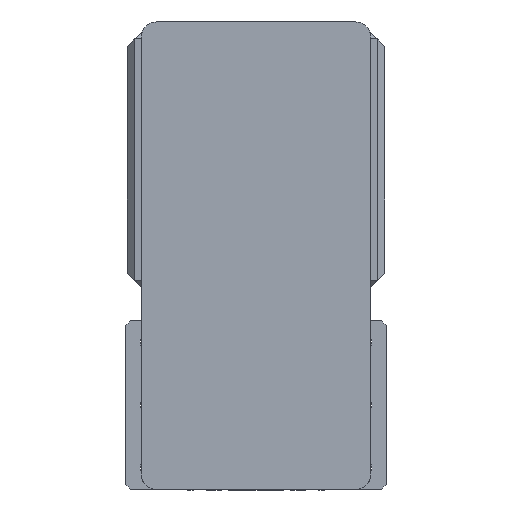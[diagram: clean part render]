
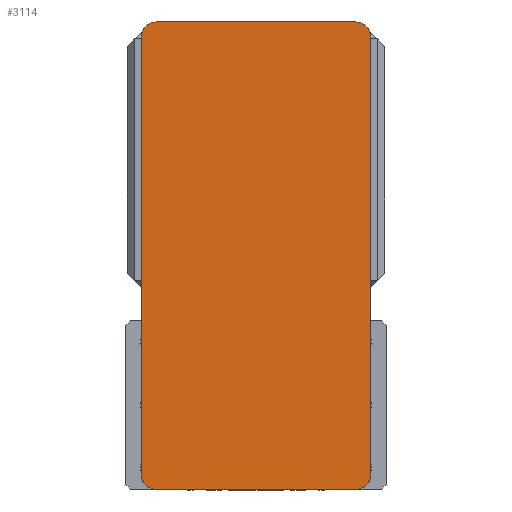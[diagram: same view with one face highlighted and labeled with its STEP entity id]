
A CAD part, left-side view. The second image highlights one B-rep face of the part: STEP entity #3114.
In plain terms, the highlighted planar face has unit normal (-1, 0, 0) as drawn and (0, 0, 1) by its records, which use the part's own axes.
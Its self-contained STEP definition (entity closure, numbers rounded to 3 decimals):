
#487 = VERTEX_POINT ( 'NONE', #1456 ) ;
#636 = CARTESIAN_POINT ( 'NONE',  ( -65., 152.5, 105. ) ) ;
#647 = DIRECTION ( 'NONE',  ( 0., 0., 1. ) ) ;
#1138 = CARTESIAN_POINT ( 'NONE',  ( 75., 142.5, 105. ) ) ;
#1252 = VECTOR ( 'NONE', #10637, 1000. ) ;
#1266 = LINE ( 'NONE', #10899, #10380 ) ;
#1289 = CARTESIAN_POINT ( 'NONE',  ( -75., 142.5, 105. ) ) ;
#1446 = CARTESIAN_POINT ( 'NONE',  ( -65., 142.5, 105. ) ) ;
#1456 = CARTESIAN_POINT ( 'NONE',  ( -65., -152.5, 105. ) ) ;
#1508 = CIRCLE ( 'NONE', #10776, 10. ) ;
#1836 = CARTESIAN_POINT ( 'NONE',  ( -75., 152.5, 105. ) ) ;
#2067 = LINE ( 'NONE', #8698, #9152 ) ;
#2097 = ORIENTED_EDGE ( 'NONE', *, *, #9516, .T. ) ;
#2120 = ORIENTED_EDGE ( 'NONE', *, *, #11275, .T. ) ;
#2188 = CARTESIAN_POINT ( 'NONE',  ( 65., -142.5, 105. ) ) ;
#2241 = VERTEX_POINT ( 'NONE', #10688 ) ;
#2319 = DIRECTION ( 'NONE',  ( 1., 0., 0. ) ) ;
#2786 = CIRCLE ( 'NONE', #8374, 10. ) ;
#2975 = EDGE_LOOP ( 'NONE', ( #2097, #2120, #6774, #8268, #3211, #3964, #9453, #10388 ) ) ;
#3001 = CARTESIAN_POINT ( 'NONE',  ( 0., 0., 105. ) ) ;
#3065 = CIRCLE ( 'NONE', #4232, 10. ) ;
#3114 = ADVANCED_FACE ( 'NONE', ( #3977 ), #10026, .T. ) ;
#3116 = DIRECTION ( 'NONE',  ( 1., 0., 0. ) ) ;
#3211 = ORIENTED_EDGE ( 'NONE', *, *, #9182, .T. ) ;
#3618 = AXIS2_PLACEMENT_3D ( 'NONE', #3001, #3905, #10067 ) ;
#3905 = DIRECTION ( 'NONE',  ( 0., 0., 1. ) ) ;
#3964 = ORIENTED_EDGE ( 'NONE', *, *, #9586, .T. ) ;
#3977 = FACE_OUTER_BOUND ( 'NONE', #2975, .T. ) ;
#4039 = DIRECTION ( 'NONE',  ( 0., 0., 1. ) ) ;
#4134 = CARTESIAN_POINT ( 'NONE',  ( 65., 152.5, 105. ) ) ;
#4209 = CARTESIAN_POINT ( 'NONE',  ( 75., 152.5, 105. ) ) ;
#4232 = AXIS2_PLACEMENT_3D ( 'NONE', #9298, #4039, #10178 ) ;
#5545 = VERTEX_POINT ( 'NONE', #636 ) ;
#5980 = CARTESIAN_POINT ( 'NONE',  ( -65., -142.5, 105. ) ) ;
#6016 = AXIS2_PLACEMENT_3D ( 'NONE', #1446, #7662, #2319 ) ;
#6172 = VERTEX_POINT ( 'NONE', #4134 ) ;
#6488 = VERTEX_POINT ( 'NONE', #1138 ) ;
#6606 = VERTEX_POINT ( 'NONE', #1289 ) ;
#6774 = ORIENTED_EDGE ( 'NONE', *, *, #9048, .T. ) ;
#6844 = DIRECTION ( 'NONE',  ( 1., 0., 0. ) ) ;
#7329 = CARTESIAN_POINT ( 'NONE',  ( 75., -142.5, 105. ) ) ;
#7435 = DIRECTION ( 'NONE',  ( 1., 0., 0. ) ) ;
#7509 = CIRCLE ( 'NONE', #6016, 10. ) ;
#7662 = DIRECTION ( 'NONE',  ( 0., 0., 1. ) ) ;
#7791 = DIRECTION ( 'NONE',  ( -1., 0., 0. ) ) ;
#7911 = VERTEX_POINT ( 'NONE', #7329 ) ;
#8207 = LINE ( 'NONE', #4209, #9966 ) ;
#8268 = ORIENTED_EDGE ( 'NONE', *, *, #9549, .T. ) ;
#8374 = AXIS2_PLACEMENT_3D ( 'NONE', #5980, #647, #6844 ) ;
#8443 = DIRECTION ( 'NONE',  ( 0., 0., 1. ) ) ;
#8609 = DIRECTION ( 'NONE',  ( 0., 1., 0. ) ) ;
#8698 = CARTESIAN_POINT ( 'NONE',  ( -75., 152.5, 105. ) ) ;
#9048 = EDGE_CURVE ( 'NONE', #7911, #6488, #8207, .T. ) ;
#9152 = VECTOR ( 'NONE', #7791, 1000. ) ;
#9182 = EDGE_CURVE ( 'NONE', #6172, #5545, #2067, .T. ) ;
#9288 = VERTEX_POINT ( 'NONE', #11439 ) ;
#9298 = CARTESIAN_POINT ( 'NONE',  ( 65., 142.5, 105. ) ) ;
#9370 = EDGE_CURVE ( 'NONE', #6606, #2241, #9550, .T. ) ;
#9453 = ORIENTED_EDGE ( 'NONE', *, *, #9370, .T. ) ;
#9516 = EDGE_CURVE ( 'NONE', #487, #9288, #1266, .T. ) ;
#9549 = EDGE_CURVE ( 'NONE', #6488, #6172, #3065, .T. ) ;
#9550 = LINE ( 'NONE', #1836, #1252 ) ;
#9586 = EDGE_CURVE ( 'NONE', #5545, #6606, #7509, .T. ) ;
#9625 = EDGE_CURVE ( 'NONE', #2241, #487, #2786, .T. ) ;
#9966 = VECTOR ( 'NONE', #8609, 1000. ) ;
#10026 = PLANE ( 'NONE',  #3618 ) ;
#10067 = DIRECTION ( 'NONE',  ( 1., 0., 0. ) ) ;
#10178 = DIRECTION ( 'NONE',  ( 1., 0., 0. ) ) ;
#10380 = VECTOR ( 'NONE', #7435, 1000. ) ;
#10388 = ORIENTED_EDGE ( 'NONE', *, *, #9625, .T. ) ;
#10637 = DIRECTION ( 'NONE',  ( 0., -1., 0. ) ) ;
#10688 = CARTESIAN_POINT ( 'NONE',  ( -75., -142.5, 105. ) ) ;
#10776 = AXIS2_PLACEMENT_3D ( 'NONE', #2188, #8443, #3116 ) ;
#10899 = CARTESIAN_POINT ( 'NONE',  ( -75., -152.5, 105. ) ) ;
#11275 = EDGE_CURVE ( 'NONE', #9288, #7911, #1508, .T. ) ;
#11439 = CARTESIAN_POINT ( 'NONE',  ( 65., -152.5, 105. ) ) ;
